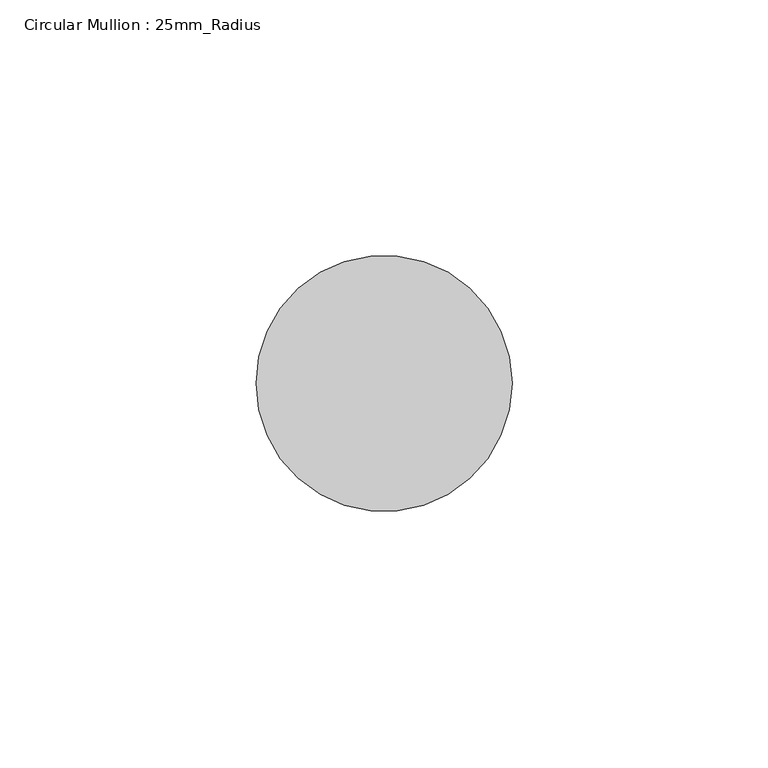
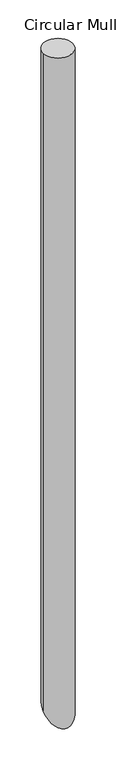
"""IFC4 building model written with IfcOpenShell, lengths in millimetres: member geometry, Circular Mullion : 25mm_Radius."""

from ifc_helpers import new_model, si_unit, frame, origin, place, context, project, spatial, circle_curve, ellipse_curve, source, transform, mapped, element, save
from ifc_brep_helpers import plane_surface, cylinder_surface, advanced_brep


def circular_mullion_25mm_radius_bca228dc(model_context):
    return source(origin(), model_context, "Body", "AdvancedBrep", [
        advanced_brep(
        [(0.0, 0.0, 0.0), (-50.0, 0.0, 0.0), (0.0, 0.0, -1176.2050127), (-50.0, 0.0, -1176.2050127)],
        [
            (0, 1, circle_curve(frame((-25.0, 0.0, 0.0), z_axis=(0.0, 0.0, 1.0), x_axis=(1.0, 0.0, 0.0)), 25.0)),
            (1, 0, circle_curve(frame((-25.0, 0.0, 0.0), z_axis=(0.0, 0.0, 1.0), x_axis=(1.0, 0.0, 0.0)), 25.0)),
            (0, 2),
            (2, 3, ellipse_curve(frame((-25.0, 0.0, -1176.2050127), z_axis=(0.0, -0.7071067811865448, 0.7071067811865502), x_axis=(0.0, 0.7071067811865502, 0.7071067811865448)), 35.3553391, 25.0)),
            (3, 1),
            (3, 2, ellipse_curve(frame((-25.0, 0.0, -1176.2050127), z_axis=(0.0, -0.7071067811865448, 0.7071067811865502), x_axis=(0.0, 0.7071067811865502, 0.7071067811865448)), 35.3553391, 25.0)),
        ],
        [
            plane_surface(frame((0.0, -50.0, 0.0), z_axis=(0.0, 0.0, 1.0), x_axis=(-1.0, 0.0, 0.0))),
            cylinder_surface(frame((-25.0, 0.0, 0.0), z_axis=(0.0, 0.0, 1.0), x_axis=(1.0, 0.0, 0.0)), 25.0),
            plane_surface(frame((-304.8, 0.0, -1176.2050127), z_axis=(0.0, 0.7071067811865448, -0.7071067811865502), x_axis=(0.0, 0.7071067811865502, 0.7071067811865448))),
        ],
        [
            (0, [[1, 2]]),
            (1, [[-1, 3, 4, 5]]),
            (1, [[-2, -5, 6, -3]]),
            (2, [[-6, -4]]),
        ],
    ),
    ])


if __name__ == "__main__":
    model = new_model("IFC4")
    model_context = context("Model", 3, world=origin())
    ifc_project = project(units=[si_unit("LENGTHUNIT", "METRE", prefix="MILLI")], contexts=[model_context])
    site = spatial("IfcSite", under=ifc_project)
    building = spatial("IfcBuilding", under=site)
    placement = place(None, origin())
    circular_mullion_25mm_radius_shape = circular_mullion_25mm_radius_bca228dc(model_context)
    element("IfcMember", 1, ObjectType="Circular Mullion : 25mm_Radius", at=placement, inside=building, context=model_context, shape_type="MappedRepresentation", body=[
        mapped(circular_mullion_25mm_radius_shape, transform((0.0, 0.0, 0.0), x_axis=(1.0, 0.0, 0.0), y_axis=(0.0, 1.0, 0.0), z_axis=(0.0, 0.0, 1.0))),
    ])
    save(model, "model.ifc")
